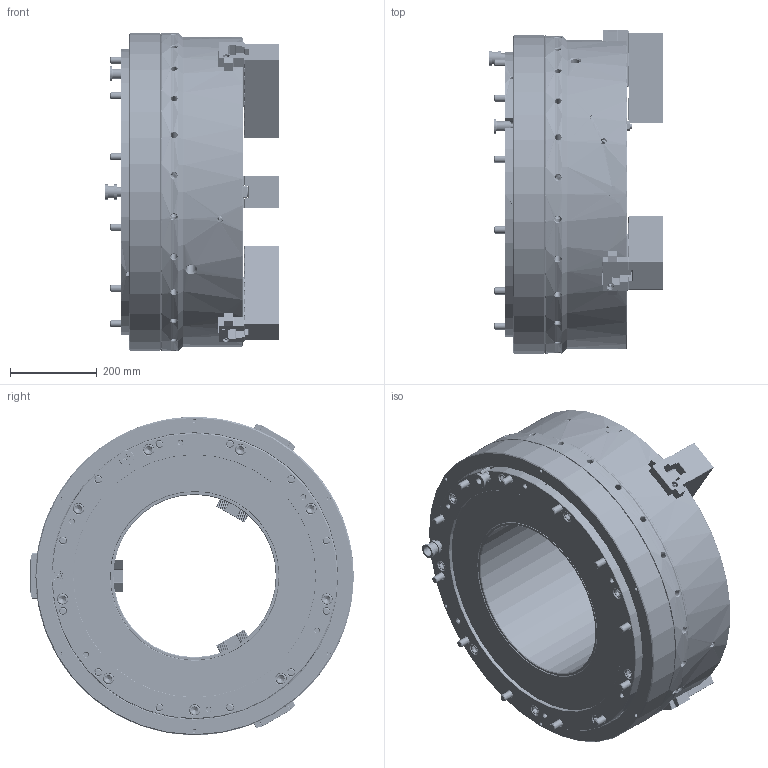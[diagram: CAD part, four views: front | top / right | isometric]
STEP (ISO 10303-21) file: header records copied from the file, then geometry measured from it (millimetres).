
FILE_DESCRIPTION (( 'STEP AP214' ), '1' );
FILE_NAME ('UPR710A375_UC.STEP', '2025-10-15T02:49:05', ( '' ), ( '' ), 'SwSTEP 2.0', 'SolidWorks 2022', '' );
FILE_SCHEMA (( 'AUTOMOTIVE_DESIGN' ));
Length unit declared in the file: millimetre
Products named in the file (5): UPR710A375_UC; 61P446153; UPR710A375__X2_672c4f53_X0_; 61P858712; 0030124060
Assembly tree (16 placements, depth 2):
  UPR710A375_UC
    61P858712  x3
    61P446153  x6
    0030124060  x6
    UPR710A375__X2_672c4f53_X0_
Bounding box: 401.69 x 746.83 x 735 mm (x, y, z)
Volume: 84702972.1 mm3; surface area: 3622056.8 mm2
Topology: 17 solids, 24 shells, 10124 faces, 28086 edges, 18374 vertices
Faces by surface type: plane 5455, cylinder 2535, bspline 1179, cone 955
Entity records: 311413 total; most frequent: CARTESIAN_POINT 109290, ORIENTED_EDGE 43620, DIRECTION 32800, EDGE_CURVE 21810, VERTEX_POINT 14313, LINE 14248, VECTOR 14248, AXIS2_PLACEMENT_3D 9276
